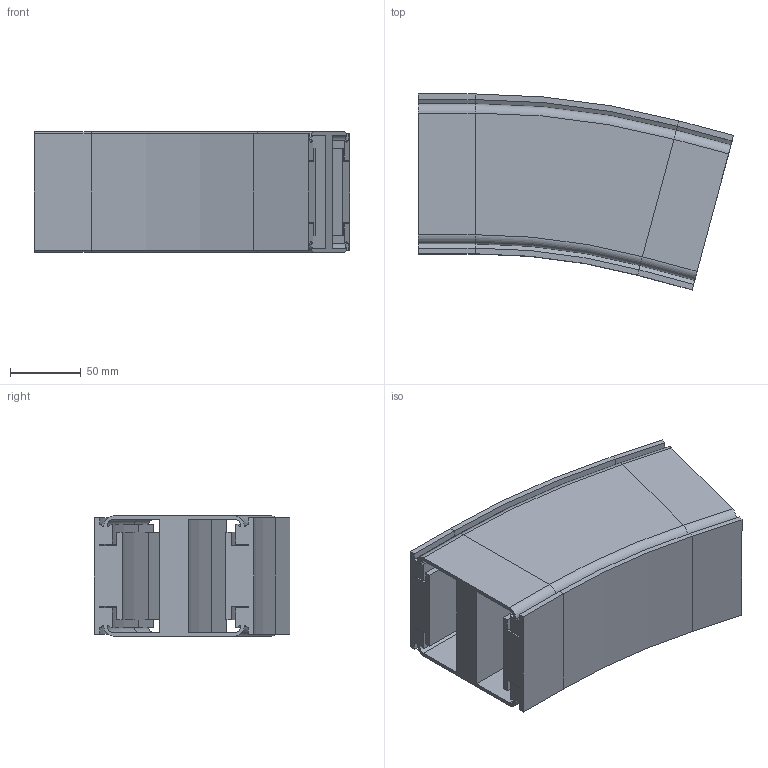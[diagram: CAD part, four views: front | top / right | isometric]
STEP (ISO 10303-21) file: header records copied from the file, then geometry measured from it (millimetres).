
FILE_DESCRIPTION (( 'STEP AP214' ), '1' );
FILE_NAME ('VC.85 Verticale bochtsectie.R500 15.STEP', '2017-02-08T08:13:10', ( '' ), ( '' ), 'SwSTEP 2.0', 'SolidWorks 2016', '' );
FILE_SCHEMA (( 'AUTOMOTIVE_DESIGN' ));
Length unit declared in the file: millimetre
Products named in the file (1): VC.85 Verticale bochtsectie.R500 15
Bounding box: 222.67 x 138.46 x 85 mm (x, y, z)
Volume: 1005386.3 mm3; surface area: 239142.2 mm2
Topology: 1 solids, 1 shells, 206 faces, 476 edges, 272 vertices
Faces by surface type: plane 144, cylinder 46, cone 8, torus 8
Entity records: 5674 total; most frequent: DIRECTION 990, CARTESIAN_POINT 955, ORIENTED_EDGE 952, EDGE_CURVE 476, VECTOR 376, LINE 376, AXIS2_PLACEMENT_3D 307, VERTEX_POINT 272
